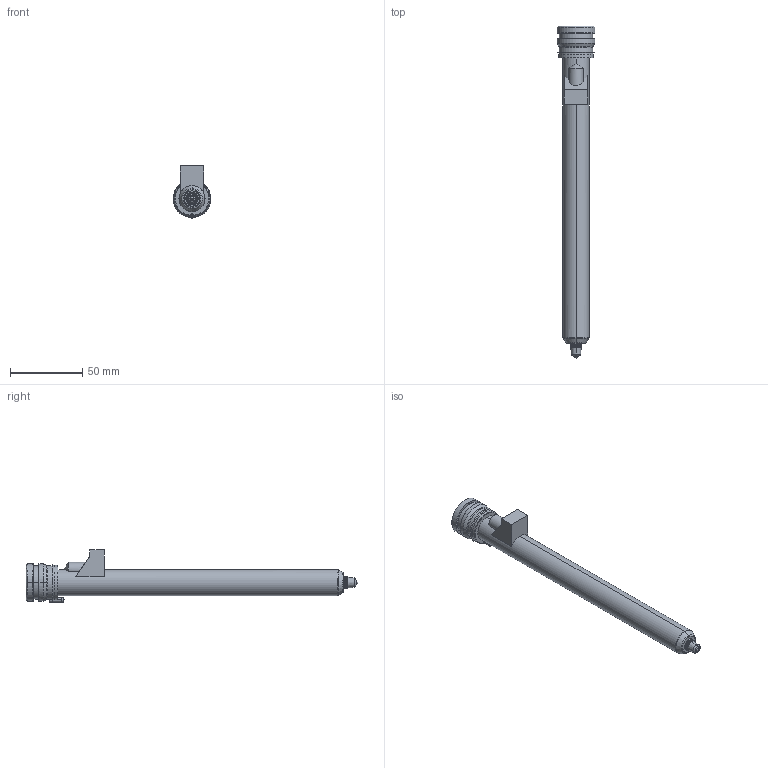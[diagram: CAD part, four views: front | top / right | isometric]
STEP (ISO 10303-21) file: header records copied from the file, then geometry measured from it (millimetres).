
FILE_DESCRIPTION((''),'2;1');
FILE_NAME('TH18211-M-1B50-PK-JG','2023-12-14T',('umhib'),('Thermoplay S.p.A.'),'PRO/ENGINEER BY PARAMETRIC TECHNOLOGY CORPORATION, 2017170','PRO/ENGINEER BY PARAMETRIC TECHNOLOGY CORPORATION, 2017170','');
FILE_SCHEMA(('CONFIG_CONTROL_DESIGN'));
Length unit declared in the file: millimetre
Products named in the file (1): TH18211-M-1B50-PK-JG
Bounding box: 26 x 229 x 36.1 mm (x, y, z)
Volume: 44179.7 mm3; surface area: 33188.5 mm2
Topology: 1 solids, 2 shells, 389 faces, 993 edges, 609 vertices
Faces by surface type: cylinder 149, plane 87, cone 62, torus 56, bspline 22, sphere 11, extrusion 2
Entity records: 16877 total; most frequent: CARTESIAN_POINT 5234, DIRECTION 1992, ORIENTED_EDGE 1960, EDGE_CURVE 982, AXIS2_PLACEMENT_3D 802, VERTEX_POINT 609, CIRCLE 436, EDGE_LOOP 412
